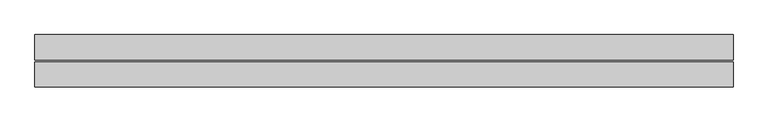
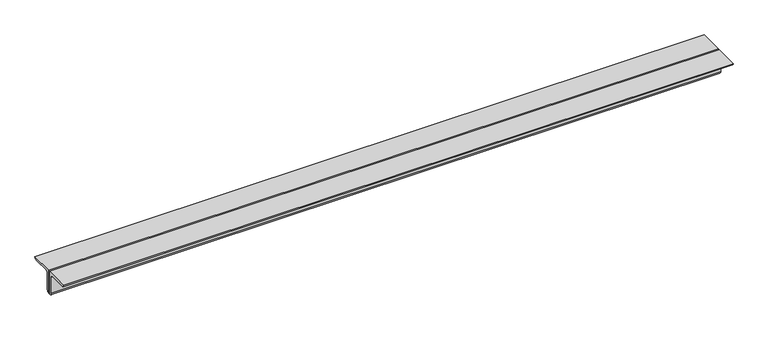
"""IFC4 building model written with IfcOpenShell, lengths in millimetres: beam geometry, Profilati doppi a L : DCED150x12."""

from ifc_helpers import new_model, si_unit, point, frame, frame_2d, origin, place, context, project, spatial, polyline, circle_curve, trimmed, segment, composite_curve, outline, extrude, source, transform, mapped, element, save


def beam_14ef86d2(model_context):
    return source(origin(), model_context, "Body", "SweptSolid", [
        extrude(outline(composite_curve([segment(polyline([(-6.0, 42.4), (-6.0, -107.6)]), True, "CONTINUOUS"), segment(trimmed(circle_curve(frame_2d((-6.0, -92.6)), 15.0), [point((-6.0, -107.6))], [point((-21.0, -92.6))], False, "CARTESIAN"), True, "CONTINUOUS"), segment(polyline([(-21.0, -92.6), (-21.0, 12.4)]), True, "CONTINUOUS"), segment(trimmed(circle_curve(frame_2d((-36.0, 12.4)), 15.0), [point((-21.0, 12.4))], [point((-36.0, 27.4))], True, "CARTESIAN"), True, "CONTINUOUS"), segment(polyline([(-36.0, 27.4), (-141.0, 27.4)]), True, "CONTINUOUS"), segment(trimmed(circle_curve(frame_2d((-141.0, 42.4)), 15.0), [point((-141.0, 27.4))], [point((-156.0, 42.4))], False, "CARTESIAN"), True, "CONTINUOUS"), segment(polyline([(-156.0, 42.4), (-6.0, 42.4)]), True, "CONTINUOUS")], self_intersect=False)), frame((-1985.0, 0.0, 0.0), z_axis=(1.0, 0.0, 0.0), x_axis=(0.0, 1.0, 0.0)), (0.0, 0.0, 1.0), 4165.0),
        extrude(outline(composite_curve([segment(polyline([(6.0, 42.4), (156.0, 42.4)]), True, "CONTINUOUS"), segment(trimmed(circle_curve(frame_2d((141.0, 42.4)), 15.0), [point((156.0, 42.4))], [point((141.0, 27.4))], False, "CARTESIAN"), True, "CONTINUOUS"), segment(polyline([(141.0, 27.4), (36.0, 27.4)]), True, "CONTINUOUS"), segment(trimmed(circle_curve(frame_2d((36.0, 12.4)), 15.0), [point((36.0, 27.4))], [point((21.0, 12.4))], True, "CARTESIAN"), True, "CONTINUOUS"), segment(polyline([(21.0, 12.4), (21.0, -92.6)]), True, "CONTINUOUS"), segment(trimmed(circle_curve(frame_2d((6.0, -92.6)), 15.0), [point((21.0, -92.6))], [point((6.0, -107.6))], False, "CARTESIAN"), True, "CONTINUOUS"), segment(polyline([(6.0, -107.6), (6.0, 42.4)]), True, "CONTINUOUS")], self_intersect=False)), frame((-1985.0, 0.0, 0.0), z_axis=(1.0, 0.0, 0.0), x_axis=(0.0, 1.0, 0.0)), (0.0, 0.0, 1.0), 4165.0),
    ])


if __name__ == "__main__":
    model = new_model("IFC4")
    model_context = context("Model", 3, world=origin())
    ifc_project = project(units=[si_unit("LENGTHUNIT", "METRE", prefix="MILLI")], contexts=[model_context])
    site = spatial("IfcSite", under=ifc_project)
    building = spatial("IfcBuilding", under=site)
    placement = place(None, origin())
    beam_shape = beam_14ef86d2(model_context)
    element("IfcBeam", 1, ObjectType="Profilati doppi a L : DCED150x12", at=placement, inside=building, context=model_context, shape_type="MappedRepresentation", body=[
        mapped(beam_shape, transform((0.0, 0.0, 0.0), x_axis=(1.0, 0.0, 0.0), y_axis=(0.0, 1.0, 0.0), z_axis=(0.0, 0.0, 1.0))),
    ])
    save(model, "model.ifc")
